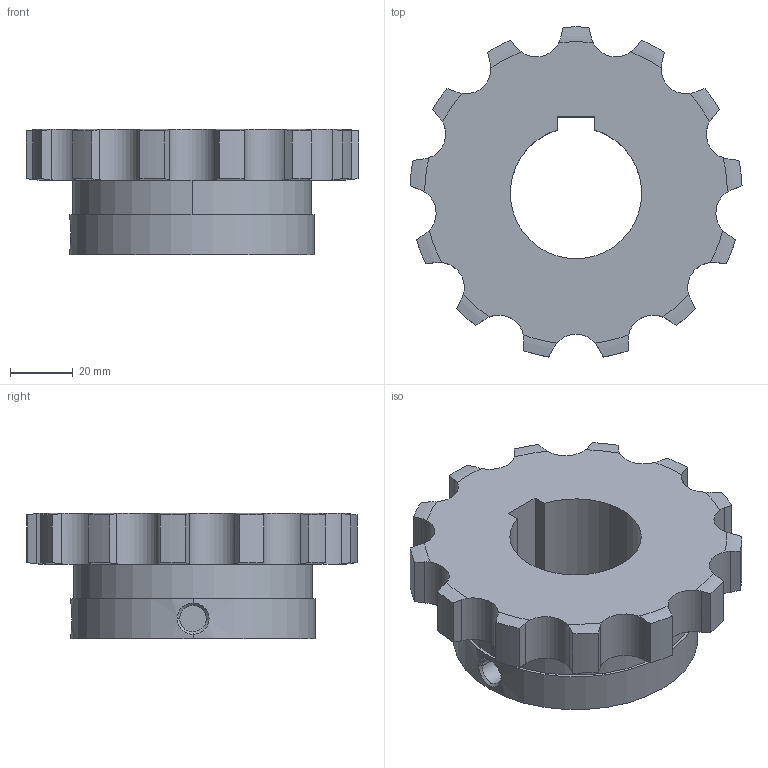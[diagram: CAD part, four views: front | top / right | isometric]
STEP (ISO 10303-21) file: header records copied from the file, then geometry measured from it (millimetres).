
FILE_DESCRIPTION((''),'2;1');
FILE_NAME('510-501-4213_PRT','2021-02-13T',('Brieden'),('Brieden'),'PRO/ENGINEER BY PARAMETRIC TECHNOLOGY CORPORATION, 2010160','PRO/ENGINEER BY PARAMETRIC TECHNOLOGY CORPORATION, 2010160','');
FILE_SCHEMA(('AUTOMOTIVE_DESIGN { 1 0 10303 214 1 1 1 1 }'));
Length unit declared in the file: millimetre
Products named in the file (1): 510-501-4213_PRT
Bounding box: 106.02 x 105.39 x 40 mm (x, y, z)
Volume: 174810.6 mm3; surface area: 31484.8 mm2
Topology: 1 solids, 1 shells, 102 faces, 285 edges, 188 vertices
Faces by surface type: cylinder 61, torus 26, plane 9, bspline 6
Entity records: 5062 total; most frequent: CARTESIAN_POINT 1668, ORIENTED_EDGE 570, DIRECTION 453, PRESENTATION_STYLE_ASSIGNMENT 286, STYLED_ITEM 286, CURVE_STYLE 285, EDGE_CURVE 285, AXIS2_PLACEMENT_3D 188
